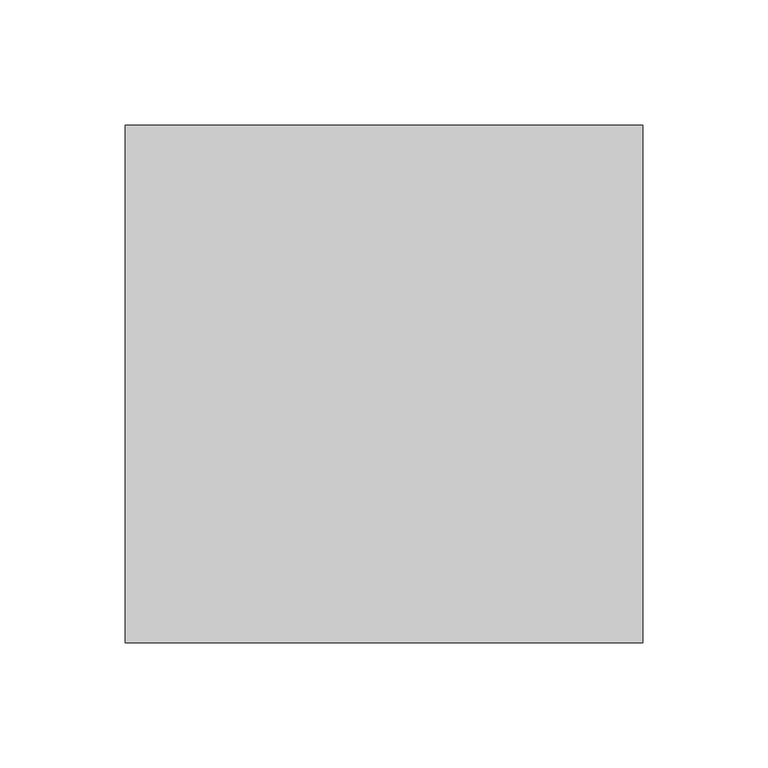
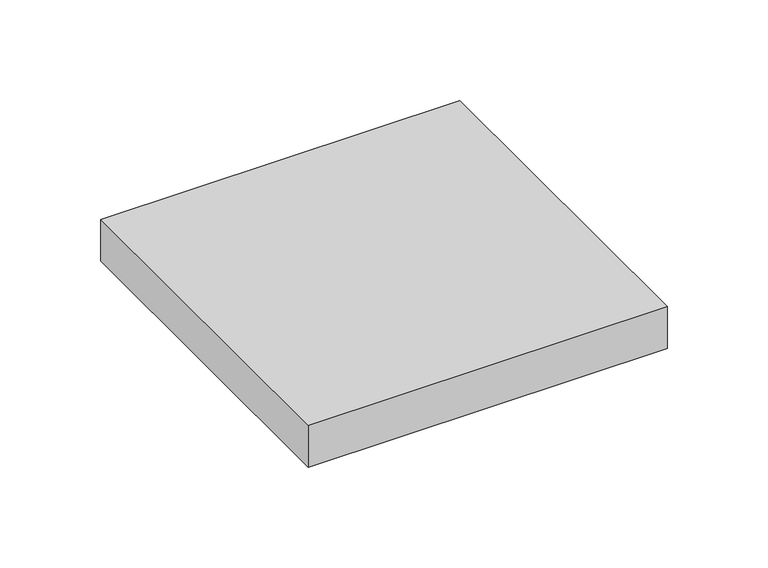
"""IFC4 building model written with IfcOpenShell, lengths in millimetres: light fixture geometry, LCMPD7Q_SURFACE MOUNT BASIC : LCMPD7QW-T30."""

from ifc_helpers import new_model, si_unit, frame, origin, place, context, project, spatial, polyline, outline, extrude, faceted_brep, source, transform, mapped, element, save


def light_fixture_769c9deb(model_context):
    return source(origin(), model_context, "Body", "SolidModel", [
        faceted_brep([(103.1875, 69.3882118, 0.0), (-103.1875, 69.3882118, 0.0), (-103.1875, -136.9867882, 0.0), (103.1875, -136.9867882, 0.0), (103.1875, 69.3882118, -25.4), (103.1875, -136.9867882, -25.4), (-103.1875, -136.9867882, -25.4), (-103.1875, 69.3882118, -25.4), (88.9, 55.1007118, -25.4), (-88.9, 55.1007118, -25.4), (-88.9, -122.6992882, -25.4), (88.9, -122.6992882, -25.4), (88.9, -122.6992882, -19.3887641), (88.9, 55.1007118, -19.3887641), (-88.9, -122.6992882, -19.3887641), (-88.9, 55.1007118, -19.3887641)], [[[0, 1, 2, 3]], [[4, 5, 6, 7], [8, 9, 10, 11]], [[1, 0, 4, 7]], [[2, 1, 7, 6]], [[3, 2, 6, 5]], [[0, 3, 5, 4]], [[8, 11, 12, 13]], [[11, 10, 14, 12]], [[10, 9, 15, 14]], [[9, 8, 13, 15]], [[13, 12, 14, 15]]]),
        extrude(outline(polyline([(88.9, 55.1007118), (88.9, -122.6992882), (-88.9, -122.6992882), (-88.9, 55.1007118), (88.9, 55.1007118)])), frame((0.0, 0.0, -22.6293088), z_axis=(0.0, 0.0, 1.0), x_axis=(1.0, 0.0, 0.0)), (0.0, 0.0, 1.0), 3.2405446),
    ])


if __name__ == "__main__":
    model = new_model("IFC4")
    model_context = context("Model", 3, world=origin())
    ifc_project = project(units=[si_unit("LENGTHUNIT", "METRE", prefix="MILLI")], contexts=[model_context])
    site = spatial("IfcSite", under=ifc_project)
    building = spatial("IfcBuilding", under=site)
    placement = place(None, origin())
    light_fixture_shape = light_fixture_769c9deb(model_context)
    element("IfcLightFixture", 1, ObjectType="LCMPD7Q_SURFACE MOUNT BASIC : LCMPD7QW-T30", at=placement, inside=building, context=model_context, shape_type="MappedRepresentation", body=[
        mapped(light_fixture_shape, transform((0.0, 0.0, 0.0), x_axis=(1.0, 0.0, 0.0), y_axis=(0.0, 1.0, 0.0), z_axis=(0.0, 0.0, 1.0))),
    ])
    save(model, "model.ifc")
